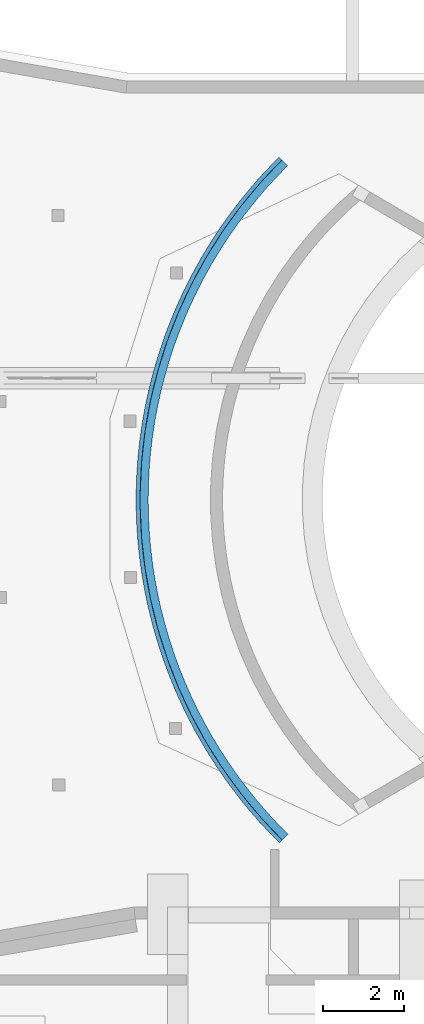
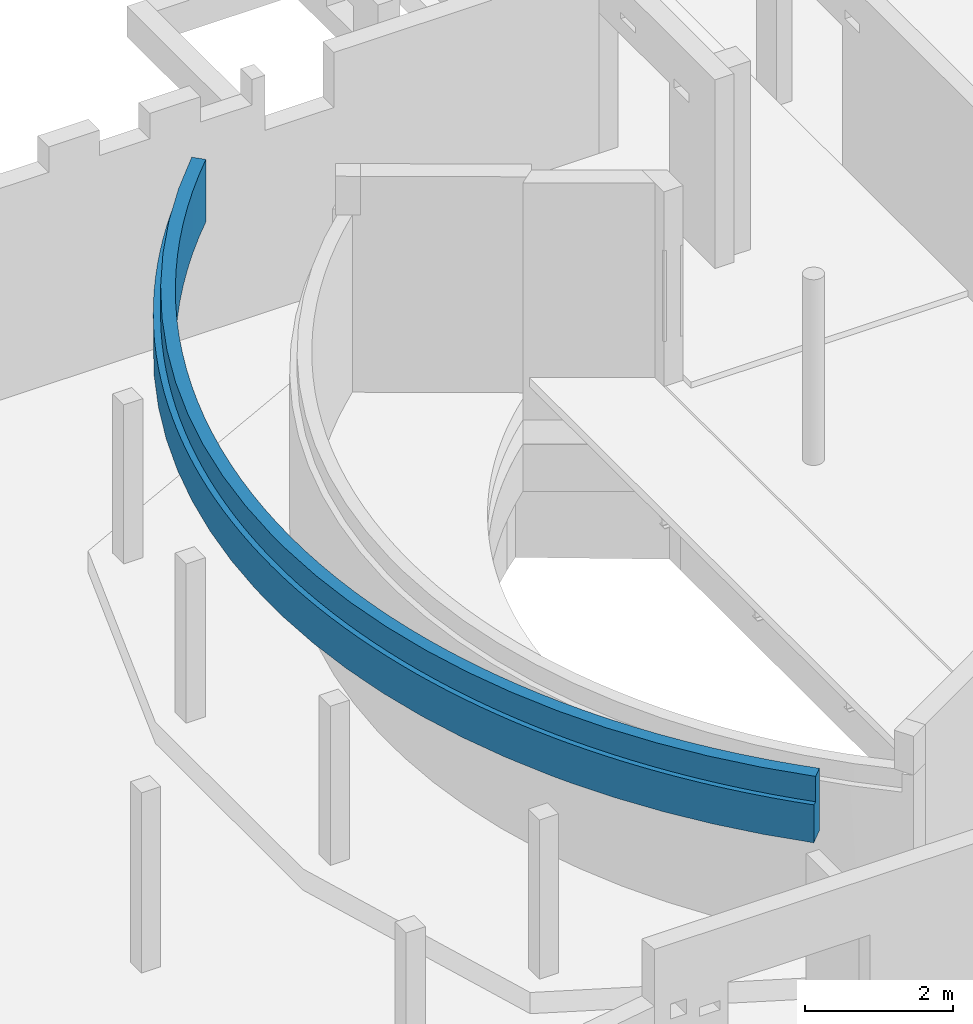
# One storey, part 40 of 42: 1 wall.
"""IFC2X3 building model written with IfcOpenShell, lengths in millimetres."""

from ifc_helpers import new_model, entity, si_unit, converted_unit, derived_unit, direction, frame, origin, place, context, subcontext, project, spatial, faceted_brep, material, layer, layer_set, type_object, element, save


model = new_model("IFC2X3")

# Units and contexts
model_context = context("Model", 3, precision=0.01, world=origin(), true_north=direction((6.12303176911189e-17, 1.0)))
body_context = subcontext(model_context, "Body", "Model", "MODEL_VIEW")
ifc_project = project(units=[si_unit("LENGTHUNIT", "METRE", prefix="MILLI"), si_unit("AREAUNIT", "SQUARE_METRE", prefix="MILLI"), si_unit("VOLUMEUNIT", "CUBIC_METRE"), converted_unit("PLANEANGLEUNIT", "DEGREE", entity("IfcRatioMeasure", 0.0174532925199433), si_unit("PLANEANGLEUNIT", "RADIAN"), dimensions=[0, 0, 0, 0, 0, 0, 0]), si_unit("MASSUNIT", "GRAM", prefix="KILO"), derived_unit("MASSDENSITYUNIT", [(si_unit("MASSUNIT", "GRAM", prefix="KILO"), 1), (si_unit("LENGTHUNIT", "METRE"), -3)]), derived_unit("MOMENTOFINERTIAUNIT", [(si_unit("LENGTHUNIT", "METRE"), 4)]), si_unit("TIMEUNIT", "SECOND"), si_unit("FREQUENCYUNIT", "HERTZ"), si_unit("THERMODYNAMICTEMPERATUREUNIT", "DEGREE_CELSIUS"), derived_unit("THERMALTRANSMITTANCEUNIT", [(si_unit("MASSUNIT", "GRAM", prefix="KILO"), 1), (si_unit("THERMODYNAMICTEMPERATUREUNIT", "KELVIN"), -1), (si_unit("TIMEUNIT", "SECOND"), -3)]), derived_unit("VOLUMETRICFLOWRATEUNIT", [(si_unit("LENGTHUNIT", "METRE"), 3), (si_unit("TIMEUNIT", "SECOND"), -1)]), si_unit("ELECTRICCURRENTUNIT", "AMPERE"), si_unit("ELECTRICVOLTAGEUNIT", "VOLT"), si_unit("POWERUNIT", "WATT"), si_unit("FORCEUNIT", "NEWTON", prefix="KILO"), si_unit("ILLUMINANCEUNIT", "LUX"), si_unit("LUMINOUSFLUXUNIT", "LUMEN"), si_unit("LUMINOUSINTENSITYUNIT", "CANDELA"), derived_unit("USERDEFINED", [(si_unit("MASSUNIT", "GRAM", prefix="KILO"), -1), (si_unit("LENGTHUNIT", "METRE"), -2), (si_unit("TIMEUNIT", "SECOND"), 3), (si_unit("LUMINOUSFLUXUNIT", "LUMEN"), 1)]), derived_unit("LINEARVELOCITYUNIT", [(si_unit("LENGTHUNIT", "METRE"), 1), (si_unit("TIMEUNIT", "SECOND"), -1)]), si_unit("PRESSUREUNIT", "PASCAL"), derived_unit("USERDEFINED", [(si_unit("LENGTHUNIT", "METRE"), -2), (si_unit("MASSUNIT", "GRAM", prefix="KILO"), 1), (si_unit("TIMEUNIT", "SECOND"), -2)]), derived_unit("LINEARFORCEUNIT", [(si_unit("MASSUNIT", "GRAM", prefix="KILO"), 1), (si_unit("LENGTHUNIT", "METRE"), 1), (si_unit("TIMEUNIT", "SECOND"), -2), (si_unit("LENGTHUNIT", "METRE"), -1)]), derived_unit("PLANARFORCEUNIT", [(si_unit("MASSUNIT", "GRAM", prefix="KILO"), 1), (si_unit("LENGTHUNIT", "METRE"), 1), (si_unit("TIMEUNIT", "SECOND"), -2), (si_unit("LENGTHUNIT", "METRE"), -2)])], contexts=[model_context])

# Site, building, storey
site_placement = place(None, origin())
site = spatial("IfcSite", under=ifc_project, at=site_placement, Name="Theater aan de Parade", CompositionType="ELEMENT")
building_placement = place(site_placement, origin())
building = spatial("IfcBuilding", under=site, at=building_placement, Name="Theater aan de Parade", CompositionType="ELEMENT")
storey_placement = place(building_placement, frame((0.0, 0.0, -3300.0)))
storey = spatial("IfcBuildingStorey", under=building, at=storey_placement, Name="-1 kelder", CompositionType="ELEMENT", Elevation=-3300.0)

# Wall
ifc_material = material(Name="00_PBT_MAT_beton t.p.g._C30/37")
ifc_layer = layer(ifc_material, 300.0)
ifc_layer_set = layer_set([ifc_layer], Name="Basic Wall:28_PBT_WA_beton t.p.g._d=300_C30/37")
wall_type = type_object("IfcWallType", Name="Basic Wall:28_PBT_WA_beton t.p.g._d=300_C30/37", PredefinedType="STANDARD", material=ifc_layer_set)
wall_placement = place(storey_placement, frame((63349.473992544, 40855.3472024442, 3240.0)))
element("IfcWall", 1, at=wall_placement, inside=storey, type_object=wall_type, Name="Basic Wall:28_PBT_WA_beton t.p.g._d=300_C30/37", ObjectType="Basic Wall:28_PBT_WA_beton t.p.g._d=300_C30/37", context=body_context, shape_type="Brep", body=[
    faceted_brep([(-3114.70271415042, -5191.44425064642, 1030.0), (-3298.28744558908, -5935.84613856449, 1030.0), (-3433.44840746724, -6690.54411705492, 1030.0), (-3519.62207319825, -7452.39162390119, 1030.0), (-3556.44915892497, -8218.21228835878, 1030.0), (-3556.30169191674, -8601.61504548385, 1030.0), (-3518.88550673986, -9367.4071539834, 1030.0), (-3432.12581252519, -10129.1881460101, 1030.0), (-3296.38433645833, -10883.7819281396, 1030.0), (-3112.2270254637, -11628.0423725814, 1030.0), (-2880.42168660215, -12358.8664343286, 1030.0), (-2601.93478585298, -13073.2070886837, 1030.0), (-2277.92741862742, -13768.0860352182, 1030.0), (-1909.75046881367, -14440.6061152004, 1030.0), (-1498.93897653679, -15087.9633907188, 1030.0), (-1047.20573811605, -15707.4588351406, 1030.0), (-556.43416490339, -16296.5095861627, 1030.0), (-28.6704307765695, -16852.6597145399, 1030.0), (111.884510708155, -16710.3772193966, 1030.0), (-157.37099774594, -16435.4765226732, 1030.0), (-417.420216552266, -16151.8511964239, 1030.0), (-667.980605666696, -15859.8093958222, 1030.0), (-908.779934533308, -15559.6684204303, 1030.0), (-1139.55657785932, -15251.7543694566, 1030.0), (-1360.05979986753, -14936.4017874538, 1030.0), (-1570.05002671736, -14613.9533008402, 1030.0), (-1769.29910679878, -14284.7592456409, 1030.0), (-1957.59055861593, -13949.1772868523, 1030.0), (-2134.71980599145, -13607.5720298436, 1030.0), (-2300.4944003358, -13260.314624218, 1030.0), (-2454.7342297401, -12907.7823605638, 1030.0), (-2597.2717146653, -12550.3582605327, 1030.0), (-2727.95199001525, -12188.4306606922, 1030.0), (-2846.63307339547, -11822.3927906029, 1030.0), (-2953.18601937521, -11452.6423455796, 1030.0), (-3047.49505958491, -11079.5810546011, 1030.0), (-3129.45772849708, -10703.6142438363, 1030.0), (-3198.98497475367, -10325.1503962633, 1030.0), (-3256.00125791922, -9944.60070785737, 1030.0), (-3300.44463055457, -9562.37864083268, 1030.0), (-3332.26680552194, -9178.8994744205, 1030.0), (-3351.43320844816, -8794.57985367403, 1030.0), (-3357.92301528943, -8409.83733678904, 1030.0), (-3351.72917495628, -8025.08994143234, 1030.0), (-3332.85841697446, -7640.75569057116, 1030.0), (-3301.33124417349, -7257.25215829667, 1030.0), (-3257.18191041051, -6874.99601613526, 1030.0), (-3200.45838335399, -6494.40258034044, 1030.0), (-3131.22229236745, -6115.88536065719, 1030.0), (-3049.54886154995, -5739.85561104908, 1030.0), (-2955.5268280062, -5366.72188287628, 1030.0), (-2849.25834543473, -4996.88958100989, 1030.0), (-2730.85887313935, -4630.76052336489, 1030.0), (-2600.4570505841, -4268.73250433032, 1030.0), (-2458.19455762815, -3911.19886257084, 1030.0), (-2304.22596059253, -3558.54805366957, 1030.0), (-2138.71854432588, -3211.16322807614, 1030.0), (-1961.85213045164, -2869.42181481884, 1030.0), (-1773.81888199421, -2533.69511143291, 1030.0), (-1574.82309459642, -2204.34788055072, 1030.0), (-1365.08097455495, -1881.73795359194, 1030.0), (-1144.82040391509, -1566.21584198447, 1030.0), (-914.280692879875, -1258.12435633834, 1030.0), (-673.712319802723, -957.79823398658, 1030.0), (-423.376659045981, -665.563775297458, 1030.0), (-163.545697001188, -381.738489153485, 1030.0), (105.498263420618, -106.630747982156, 1030.0), (-35.1660878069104, 35.5435826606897, 1030.0), (-562.501845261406, -521.012365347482, 1030.0), (-1052.82014382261, -1110.44046991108, 1030.0), (-1504.07669945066, -1730.28322848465, 1030.0), (-1914.39008822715, -2377.95633070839, 1030.0), (-2282.0495905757, -3050.75943317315, 1030.0), (-2605.5223237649, -3745.88741796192, 1030.0), (-2883.45963295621, -4460.44208802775, 1030.0), (-2976.53064550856, -12387.0189490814, 0.0), (-3204.03063162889, -11670.8972928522, 0.0), (-3386.16690661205, -10941.9166792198, 0.0), (-3522.22227481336, -10202.9476538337, 0.0), (-3611.66099113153, -9456.90009223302, 0.0), (-3654.13087042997, -8706.71174226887, 0.0), (-3649.46467423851, -7955.33665679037, 0.0), (-3597.68076927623, -7205.73356213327, 0.0), (-3498.98305520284, -6460.85420820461, 0.0), (-3353.76016188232, -5723.63174602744, 0.0), (-3162.58391931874, -4996.96917850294, 0.0), (-2926.20710628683, -4283.72792985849, 0.0), (-2645.56048651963, -3586.71657878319, 0.0), (-2321.74914412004, -2908.67979960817, 0.0), (-1956.04813262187, -2252.28755507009, 0.0), (-1549.8974548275, -1620.12458320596, 0.0), (-1104.89639318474, -1014.68021976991, 0.0), (-622.797213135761, -438.338596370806, 0.0), (-105.49826342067, 106.630747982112, 0.0), (105.498263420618, -106.630747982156, 0.0), (-163.545697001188, -381.738489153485, 0.0), (-423.376659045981, -665.563775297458, 0.0), (-673.712319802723, -957.79823398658, 0.0), (-914.280692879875, -1258.12435633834, 0.0), (-1144.82040391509, -1566.21584198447, 0.0), (-1365.08097455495, -1881.73795359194, 0.0), (-1574.82309459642, -2204.34788055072, 0.0), (-1773.81888199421, -2533.69511143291, 0.0), (-1961.85213045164, -2869.42181481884, 0.0), (-2138.71854432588, -3211.16322807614, 0.0), (-2304.22596059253, -3558.54805366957, 0.0), (-2458.19455762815, -3911.19886257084, 0.0), (-2600.4570505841, -4268.73250433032, 0.0), (-2730.85887313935, -4630.76052336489, 0.0), (-2849.25834543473, -4996.88958100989, 0.0), (-2955.5268280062, -5366.72188287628, 0.0), (-3049.54886154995, -5739.85561104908, 0.0), (-3131.22229236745, -6115.88536065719, 0.0), (-3200.45838335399, -6494.40258034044, 0.0), (-3257.18191041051, -6874.99601613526, 0.0), (-3301.33124417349, -7257.25215829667, 0.0), (-3332.85841697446, -7640.75569057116, 0.0), (-3351.72917495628, -8025.08994143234, 0.0), (-3357.92301528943, -8409.83733678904, 0.0), (-3351.43320844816, -8794.57985367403, 0.0), (-3332.26680552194, -9178.8994744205, 0.0), (-3300.44463055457, -9562.37864083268, 0.0), (-3256.00125791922, -9944.60070785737, 0.0), (-3198.98497475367, -10325.1503962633, 0.0), (-3129.45772849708, -10703.6142438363, 0.0), (-3047.49505958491, -11079.5810546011, 0.0), (-2953.18601937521, -11452.6423455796, 0.0), (-2846.63307339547, -11822.3927906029, 0.0), (-2727.95199001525, -12188.4306606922, 0.0), (-2597.2717146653, -12550.3582605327, 0.0), (-2454.7342297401, -12907.7823605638, 0.0), (-2300.4944003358, -13260.314624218, 0.0), (-2134.71980599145, -13607.5720298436, 0.0), (-1957.59055861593, -13949.1772868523, 0.0), (-1769.29910679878, -14284.7592456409, 0.0), (-1570.05002671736, -14613.9533008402, 0.0), (-1360.05979986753, -14936.4017874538, 0.0), (-1139.55657785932, -15251.7543694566, 0.0), (-908.779934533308, -15559.6684204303, 0.0), (-667.980605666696, -15859.8093958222, 0.0), (-417.420216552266, -16151.8511964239, 0.0), (-157.37099774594, -16435.4765226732, 0.0), (111.884510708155, -16710.3772193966, 0.0), (-98.9479015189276, -16923.8009621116, 0.0), (-597.708781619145, -16400.4157685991, 0.0), (-1063.97197619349, -15847.8857038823, 0.0), (-1496.03854067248, -15268.2246292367, 0.0), (-1892.33404869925, -14663.5451580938, 0.0), (-2251.41431284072, -14036.0509766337, 0.0), (-2321.14630609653, -13903.1811346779, 0.0), (-2389.19633626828, -13769.4706515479, 0.0), (-2704.56277060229, -13087.4617348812, 0.0), (-35.1660878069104, 35.5435826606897, 611.899103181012), (-105.49826342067, 106.630747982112, 627.445548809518), (-70.3321570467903, 71.0871465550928, 619.672303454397), (-310.0030001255, -100.683314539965, 628.970074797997), (-892.437649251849, -751.592818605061, 633.30538031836), (-509.405931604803, -312.909411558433, 630.455409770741), (-1253.68723906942, -1208.38183712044, 635.989437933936), (-703.58910322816, -529.922027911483, 631.90076642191), (-1075.83985810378, -977.790681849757, 634.668510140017), (-1425.87458655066, -1443.22990426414, 637.267469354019), (-1592.30004237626, -1682.1959841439, 638.501933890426), (-2760.32027138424, -3856.70774529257, 647.14374402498), (-3060.25350618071, -4669.60075599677, 649.356676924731), (-3427.13193319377, -6065.74443821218, 652.060128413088), (-3227.1992597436, -5222.66430609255, 650.587330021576), (-3567.46940902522, -6936.32649860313, 653.093257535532), (-1752.86515613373, -1925.13874077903, 639.692185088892), (-1907.47494348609, -2171.91448493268, 640.837600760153), (-2198.46626752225, -2676.37892382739, 642.9915592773), (-2056.03794243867, -2422.37725909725, 641.937583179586), (-2528.03401010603, -3327.75388244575, 645.428187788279), (-3625.1224166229, -7519.65337731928, 653.517526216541), (-2402.38886917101, -3067.63355451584, 644.499601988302), (-2368.74191512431, -3000.59537270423, 644.250857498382), (-2334.67566186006, -2933.76924536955, 643.998980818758), (-2647.36763383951, -3590.82965308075, 646.309718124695), (-2866.82616872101, -4125.23340737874, 647.929841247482), (-2966.82332313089, -4396.25034208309, 648.667610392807), (-3147.06231999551, -4945.12550554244, 649.996691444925), (-3367.274841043, -5783.13688923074, 651.61930932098), (-3300.6176813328, -5502.05564333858, 651.128293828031), (-3504.98086291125, -6497.65537411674, 652.633300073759), (-3480.15410994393, -6349.71379119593, 652.450528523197), (-3599.86593059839, -7227.63707477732, 653.331674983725), (-3527.95226874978, -6645.89621379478, 652.802397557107), (-3643.22372975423, -7812.20041869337, 653.650714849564), (-3654.15902113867, -8105.10289294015, 653.731171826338), (-3657.92173694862, -8398.18528096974, 653.758855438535), (-2862.31470087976, -12697.2298153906, 647.896549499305), (-2517.28465236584, -13505.834712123, 645.348761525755), (-2251.41431284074, -14036.0509766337, 643.38323157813), (-2321.14039471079, -13903.1925720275, 643.898895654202), (-2117.79638973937, -14279.95219197, 642.394668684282), (-3643.92472269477, -8984.18728797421, 653.655872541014), (-3569.21822965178, -9860.1511023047, 653.106128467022), (-3302.68633446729, -11300.349063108, 651.143533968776), (-3058.95965011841, -12145.0314814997, 649.347136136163), (-3483.78067538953, -10440.059948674, 652.477227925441), (-1527.80843127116, -15222.5766661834, 638.023659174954), (-1683.47663748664, -14992.1237229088, 639.177905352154), (-1200.62876075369, -15672.3279748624, 635.595450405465), (-852.917996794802, -16106.4009601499, 633.011526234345), (-294.50917400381, -16726.0745868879, 628.854614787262), (-98.9479015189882, -16923.8009621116, 627.396697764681), (-485.426497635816, -16523.8590467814, 630.276849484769), (-1366.8302008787, -15449.3521820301, 636.829317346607), (-1029.29388051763, -15891.3836210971, 634.32264986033), (-671.596262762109, -16317.2640137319, 631.662709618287), (-3430.44233141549, -10728.2722417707, 652.084505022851), (-3370.06548931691, -11015.0925705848, 651.639863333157), (-3228.34524893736, -11583.8707850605, 650.595775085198), (-3530.04855126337, -10150.6284185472, 652.817828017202), (-3654.50962231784, -8691.27195581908, 653.733751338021), (-3626.1733826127, -9276.75575069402, 653.525259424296), (-3601.26624186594, -9568.80202539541, 653.341979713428), (-3147.08678736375, -11865.487841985, 649.996871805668), (-2389.19633626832, -13769.4706515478, 644.402076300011), (-1978.55021822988, -14520.684330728, 641.36393031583), (-2964.01665407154, -12422.3341944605, 648.646906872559), (-2753.9147428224, -12969.5536221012, 647.096456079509), (-2638.88174620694, -13239.142434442, 646.247045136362), (-1833.75092579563, -14758.1175345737, 640.291505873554), (-28.6704307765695, -16852.6597145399, 611.850266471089), (-63.8091475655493, -16888.2303195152, 619.623459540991), (-2774.52759345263, -12646.8548297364, 632.38468277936), (-2664.70858528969, -12923.5598110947, 631.567608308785), (-2877.37522391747, -12367.4835539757, 633.149575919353), (-3061.90212796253, -11801.4461472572, 634.521172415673), (-2973.1868148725, -12085.6215991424, 633.861868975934), (-2547.98724399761, -13197.4245597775, 630.698800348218), (-1863.56318654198, -14518.1880524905, 625.596450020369), (-1707.11739661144, -14771.4662509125, 624.428255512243), (-2013.61032423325, -14261.0672525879, 626.716200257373), (-2424.43695342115, -13468.2769239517, 629.77873568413), (-2294.1353904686, -13735.9466464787, 628.807919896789), (-2157.16447619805, -14000.2654719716, 627.786887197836), (-1544.37131005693, -15020.742643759, 623.212263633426), (-3143.46538674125, -11515.1358337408, 635.127126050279), (-3442.36511777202, -10057.9015530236, 637.346107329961), (-3397.24033723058, -10352.1635510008, 637.011271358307), (-3480.09864434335, -9762.60070510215, 637.626054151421), (-3548.73777172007, -8872.32397537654, 638.135187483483), (-3533.30169723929, -9169.62553500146, 638.020701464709), (-3510.41719182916, -9466.44664194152, 637.850959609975), (-3556.71570962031, -8574.72885641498, 638.194355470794), (-3284.93513280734, -10936.8318418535, 636.177690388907), (-3344.75267514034, -10645.2017171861, 636.621728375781), (-3217.8253087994, -11226.8706463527, 635.67939912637), (-3557.23049460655, -8277.02725614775, 638.198173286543), (-441.58714247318, -16423.7770333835, 614.952249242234), (-1019.37384101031, -15743.0072884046, 619.284386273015), (-832.488347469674, -15974.736220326, 617.884223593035), (-639.852413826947, -16201.7070220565, 616.439908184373), (-1200.39140616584, -15506.6658785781, 620.639613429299), (-237.817173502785, -16640.8066760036, 613.422082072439), (-1375.42724270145, -15265.860543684, 621.949148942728), (-3550.28180282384, -7979.40631960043, 638.14663885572), (-3535.87400310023, -7682.05314106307, 638.03978016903), (-3514.01615419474, -7385.15464639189, 637.877655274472), (-3448.00995633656, -6793.46786453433, 637.387989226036), (-3403.90310844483, -6499.05152954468, 637.060714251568), (-3484.72199909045, -7088.89747541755, 637.660352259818), (-3352.42918734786, -6205.83354883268, 636.678705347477), (-3293.62055692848, -5913.99824694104, 636.242170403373), (-3227.51419263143, -5623.72907862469, 635.751347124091), (-3073.57907931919, -5048.61792095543, 634.607935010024), (-2985.84711539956, -4764.13745825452, 633.955969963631), (-2891.0109277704, -4481.94595726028, 633.250963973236), (-2680.26867794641, -3925.1375006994, 631.683399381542), (-2789.13008887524, -4202.22066286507, 632.493302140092), (-2564.49514960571, -3650.87068166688, 630.821699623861), (-2312.50718747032, -3111.47380334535, 628.944829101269), (-2244.7685181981, -2977.60003025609, 628.439982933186), (-2175.34353890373, -2844.59252977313, 627.922431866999), (-1904.49205668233, -2361.18756476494, 625.9019526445), (-1611.38338733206, -1890.9456221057, 623.713051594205), (-1760.68108952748, -2124.35651354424, 624.828300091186), (-2042.73796945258, -2601.30981986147, 626.933494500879), (-2441.88229037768, -3379.59260758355, 629.908675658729), (-3154.15165817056, -5335.20851345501, 635.206502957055), (-1456.68025712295, -1661.08198296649, 622.556742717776), (-1296.6559492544, -1434.89075604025, 621.359929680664), (-1131.39761144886, -1212.49510048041, 620.123189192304), (-785.541636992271, -779.572735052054, 617.532334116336), (-419.865613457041, -363.25762015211, 614.789194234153), (-605.132347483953, -569.281742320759, 616.179473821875), (-960.995241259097, -994.016107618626, 618.847118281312), (-229.842304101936, -161.612519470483, 613.362171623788)], [[[0, 1, 2, 3, 4, 5, 6, 7, 8, 9, 10, 11, 12, 13, 14, 15, 16, 17, 18, 19, 20, 21, 22, 23, 24, 25, 26, 27, 28, 29, 30, 31, 32, 33, 34, 35, 36, 37, 38, 39, 40, 41, 42, 43, 44, 45, 46, 47, 48, 49, 50, 51, 52, 53, 54, 55, 56, 57, 58, 59, 60, 61, 62, 63, 64, 65, 66, 67, 68, 69, 70, 71, 72, 73, 74]], [[75, 76, 77, 78, 79, 80, 81, 82, 83, 84, 85, 86, 87, 88, 89, 90, 91, 92, 93, 94, 95, 96, 97, 98, 99, 100, 101, 102, 103, 104, 105, 106, 107, 108, 109, 110, 111, 112, 113, 114, 115, 116, 117, 118, 119, 120, 121, 122, 123, 124, 125, 126, 127, 128, 129, 130, 131, 132, 133, 134, 135, 136, 137, 138, 139, 140, 141, 142, 143, 144, 145, 146, 147, 148, 149, 150, 151]], [[141, 140, 20, 19]], [[142, 141, 19, 18]], [[138, 137, 23, 22]], [[139, 138, 22, 21]], [[140, 139, 21, 20]], [[135, 134, 26, 25]], [[136, 135, 25, 24]], [[132, 131, 29, 28]], [[133, 132, 28, 27]], [[134, 133, 27, 26]], [[137, 136, 24, 23]], [[129, 128, 32, 31]], [[130, 129, 31, 30]], [[126, 125, 35, 34]], [[127, 126, 34, 33]], [[128, 127, 33, 32]], [[123, 122, 38, 37]], [[124, 123, 37, 36]], [[120, 119, 41, 40]], [[121, 120, 40, 39]], [[122, 121, 39, 38]], [[125, 124, 36, 35]], [[131, 130, 30, 29]], [[119, 118, 42, 41]], [[116, 115, 45, 44]], [[117, 116, 44, 43]], [[113, 112, 48, 47]], [[114, 113, 47, 46]], [[115, 114, 46, 45]], [[110, 109, 51, 50]], [[111, 110, 50, 49]], [[107, 106, 54, 53]], [[108, 107, 53, 52]], [[109, 108, 52, 51]], [[112, 111, 49, 48]], [[104, 103, 57, 56]], [[105, 104, 56, 55]], [[101, 100, 60, 59]], [[102, 101, 59, 58]], [[103, 102, 58, 57]], [[98, 97, 63, 62]], [[99, 98, 62, 61]], [[95, 94, 66, 65]], [[96, 95, 65, 64]], [[97, 96, 64, 63]], [[100, 99, 61, 60]], [[106, 105, 55, 54]], [[118, 117, 43, 42]], [[152, 67, 66, 94, 93, 153, 154]], [[153, 93, 155]], [[155, 93, 92]], [[156, 92, 91]], [[92, 157, 155]], [[158, 91, 90]], [[92, 156, 159]], [[159, 157, 92]], [[91, 158, 160]], [[160, 156, 91]], [[90, 161, 158]], [[90, 162, 161]], [[86, 163, 87]], [[86, 85, 164]], [[83, 165, 84]], [[166, 85, 84]], [[82, 167, 83]], [[168, 89, 169]], [[168, 162, 90]], [[170, 89, 88]], [[89, 171, 169]], [[90, 89, 168]], [[87, 172, 88]], [[82, 81, 173]], [[174, 175, 88]], [[176, 88, 175]], [[172, 87, 177]], [[174, 88, 172]], [[176, 170, 88]], [[178, 86, 179]], [[86, 178, 163]], [[85, 180, 164]], [[86, 164, 179]], [[163, 177, 87]], [[171, 89, 170]], [[181, 84, 165]], [[84, 181, 182]], [[83, 183, 184]], [[83, 184, 165]], [[166, 84, 182]], [[82, 185, 167]], [[167, 186, 83]], [[173, 81, 187]], [[188, 187, 81]], [[185, 82, 173]], [[183, 83, 186]], [[180, 85, 166]], [[189, 188, 81]], [[81, 80, 189]], [[151, 190, 75]], [[151, 150, 191]], [[148, 192, 149]], [[193, 150, 149]], [[147, 194, 148]], [[79, 195, 80]], [[78, 196, 79]], [[197, 77, 76]], [[75, 198, 76]], [[78, 77, 199]], [[200, 201, 146]], [[201, 147, 146]], [[145, 202, 146]], [[144, 203, 145]], [[204, 143, 205]], [[143, 204, 144]], [[204, 206, 144]], [[146, 202, 207]], [[145, 208, 202]], [[203, 208, 145]], [[144, 209, 203]], [[144, 206, 209]], [[146, 207, 200]], [[77, 210, 199]], [[210, 77, 211]], [[77, 197, 211]], [[197, 76, 212]], [[213, 78, 199]], [[80, 195, 214]], [[79, 215, 195]], [[216, 215, 79]], [[79, 196, 216]], [[213, 196, 78]], [[76, 217, 212]], [[193, 218, 150]], [[149, 192, 193]], [[194, 192, 148]], [[147, 219, 194]], [[150, 218, 191]], [[198, 217, 76]], [[220, 198, 75]], [[221, 190, 151]], [[190, 220, 75]], [[222, 221, 151]], [[222, 151, 191]], [[147, 223, 219]], [[147, 201, 223]], [[80, 214, 189]], [[224, 225, 205, 143, 142, 18, 17]], [[221, 226, 190]], [[227, 221, 222]], [[228, 220, 190]], [[212, 217, 229]], [[198, 230, 217]], [[228, 198, 220]], [[222, 191, 231]], [[219, 223, 232]], [[201, 233, 223]], [[219, 234, 194]], [[191, 218, 235]], [[218, 193, 236]], [[237, 193, 192]], [[194, 237, 192]], [[201, 200, 238]], [[239, 197, 212]], [[196, 213, 240]], [[241, 213, 199]], [[196, 242, 216]], [[243, 214, 195]], [[195, 215, 244]], [[216, 245, 215]], [[246, 189, 214]], [[210, 211, 247]], [[210, 248, 199]], [[196, 240, 242]], [[249, 211, 197]], [[246, 214, 243]], [[245, 216, 242]], [[244, 215, 245]], [[243, 195, 244]], [[246, 250, 189]], [[250, 188, 189]], [[213, 241, 240]], [[206, 204, 251]], [[205, 225, 204]], [[206, 251, 209]], [[252, 202, 208]], [[208, 203, 253]], [[209, 254, 203]], [[255, 207, 202]], [[225, 256, 204]], [[256, 251, 204]], [[225, 224, 256]], [[255, 202, 252]], [[254, 209, 251]], [[253, 203, 254]], [[252, 208, 253]], [[255, 257, 207]], [[207, 257, 200]], [[230, 198, 228]], [[226, 221, 227]], [[228, 190, 226]], [[248, 210, 247]], [[239, 212, 229]], [[249, 197, 239]], [[247, 211, 249]], [[230, 229, 217]], [[232, 223, 233]], [[238, 200, 257]], [[233, 201, 238]], [[231, 191, 235]], [[237, 194, 234]], [[236, 193, 237]], [[235, 218, 236]], [[232, 234, 219]], [[227, 222, 231]], [[248, 241, 199]], [[187, 188, 258]], [[173, 187, 259]], [[173, 260, 185]], [[186, 167, 261]], [[262, 183, 186]], [[185, 263, 167]], [[184, 183, 262]], [[259, 187, 258]], [[263, 185, 260]], [[259, 260, 173]], [[165, 184, 264]], [[186, 261, 262]], [[165, 265, 181]], [[181, 266, 182]], [[167, 263, 261]], [[262, 264, 184]], [[250, 258, 188]], [[180, 166, 267]], [[268, 164, 180]], [[179, 164, 269]], [[270, 163, 178]], [[163, 270, 177]], [[178, 179, 271]], [[172, 177, 272]], [[273, 175, 174]], [[175, 274, 176]], [[275, 170, 176]], [[171, 276, 169]], [[162, 168, 277]], [[278, 168, 169]], [[170, 279, 171]], [[172, 280, 174]], [[166, 182, 281]], [[161, 162, 282]], [[265, 165, 264]], [[281, 182, 266]], [[265, 266, 181]], [[268, 180, 267]], [[271, 179, 269]], [[268, 269, 164]], [[281, 267, 166]], [[272, 177, 270]], [[273, 174, 280]], [[272, 280, 172]], [[275, 176, 274]], [[276, 171, 279]], [[278, 169, 276]], [[275, 279, 170]], [[273, 274, 175]], [[271, 270, 178]], [[282, 283, 161]], [[282, 162, 277]], [[160, 158, 284]], [[168, 278, 277]], [[159, 156, 285]], [[286, 155, 157]], [[159, 287, 157]], [[156, 160, 288]], [[153, 155, 154]], [[284, 158, 283]], [[285, 156, 288]], [[284, 288, 160]], [[287, 286, 157]], [[159, 285, 287]], [[289, 155, 286]], [[154, 289, 152]], [[154, 155, 289]], [[283, 158, 161]], [[152, 289, 67]], [[287, 285, 68]], [[286, 287, 68]], [[289, 286, 68]], [[284, 283, 69]], [[288, 284, 69]], [[277, 278, 70]], [[282, 277, 70]], [[283, 282, 70]], [[285, 288, 69]], [[279, 275, 72]], [[276, 279, 71]], [[273, 280, 72]], [[274, 273, 72]], [[275, 274, 72]], [[270, 271, 73]], [[272, 270, 73]], [[268, 267, 0]], [[269, 268, 74]], [[271, 269, 74]], [[280, 272, 73]], [[278, 276, 71]], [[73, 271, 74]], [[0, 281, 266]], [[0, 74, 268]], [[0, 266, 1]], [[72, 280, 73]], [[67, 289, 68]], [[68, 285, 69]], [[70, 278, 71]], [[71, 279, 72]], [[283, 70, 69]], [[267, 281, 0]], [[264, 262, 2]], [[265, 264, 1]], [[263, 260, 3]], [[261, 263, 2]], [[262, 261, 2]], [[1, 264, 2]], [[2, 263, 3]], [[258, 4, 3]], [[4, 258, 250]], [[258, 3, 259]], [[259, 3, 260]], [[265, 1, 266]], [[227, 231, 11]], [[236, 237, 12]], [[235, 236, 12]], [[231, 235, 11]], [[239, 229, 9]], [[249, 239, 9]], [[228, 226, 10]], [[230, 228, 10]], [[229, 230, 9]], [[227, 11, 226]], [[253, 254, 16]], [[252, 253, 15]], [[256, 224, 17]], [[251, 256, 16]], [[254, 251, 16]], [[232, 233, 13]], [[234, 232, 13]], [[257, 255, 14]], [[238, 257, 14]], [[233, 238, 14]], [[252, 15, 255]], [[237, 234, 13]], [[244, 245, 6]], [[240, 241, 7]], [[242, 240, 7]], [[245, 242, 6]], [[250, 246, 5]], [[5, 246, 243]], [[250, 5, 4]], [[244, 6, 243]], [[6, 242, 7]], [[243, 6, 5]], [[241, 248, 7]], [[8, 248, 247]], [[233, 14, 13]], [[237, 13, 12]], [[14, 255, 15]], [[15, 253, 16]], [[256, 17, 16]], [[8, 247, 249]], [[8, 249, 9]], [[10, 226, 11]], [[11, 235, 12]], [[230, 10, 9]], [[248, 8, 7]]]),
])

save(model, "model.ifc")
